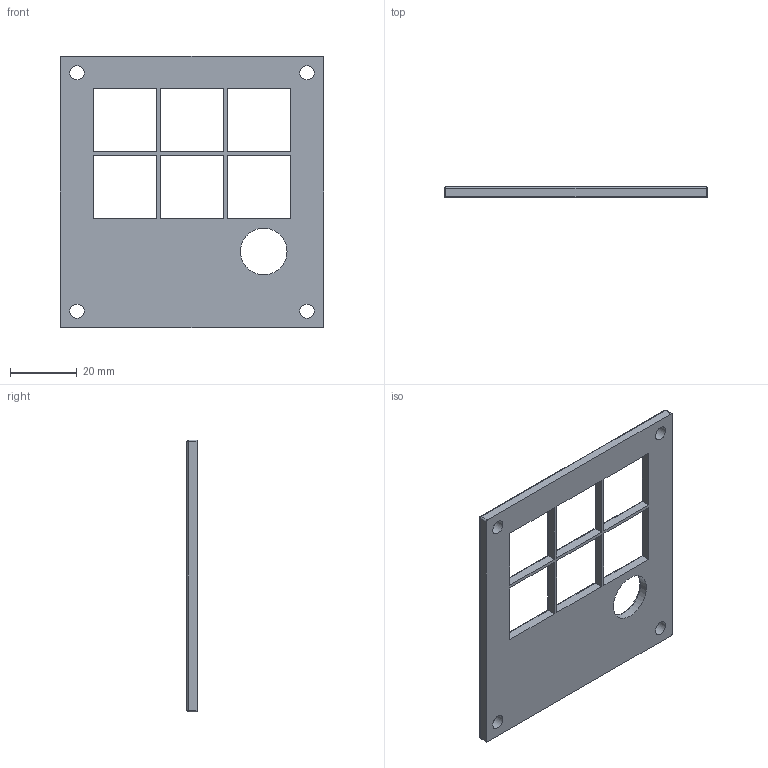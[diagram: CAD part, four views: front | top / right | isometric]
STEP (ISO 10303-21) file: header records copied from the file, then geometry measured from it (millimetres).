
FILE_DESCRIPTION(/* description */ ('STEP AP242 Edition 2','CAx-IF Rec.Pracs.---Representation and Presentation of Product Manufacturing Information (PMI)---4.0---2014-10-13','CAx-IF Rec.Pracs.---3D Tessellated Geometry---0.4---2014-09-14','2;1','CAx-IF Rec.Pracs.---User Defined Attributes---1.5---2016-08-15'),/* implementation_level */ '2;1');
FILE_NAME(/* name */ 'Configuration 6 - casetop',/* time_stamp */ '2026-10-25T00:37:35Z',/* author */ (''),/* organization */ (''),/* preprocessor_version */ 'ST-DEVELOPER v20',/* originating_system */ 'ONSHAPE BY PTC INC, 1.222',/* authorisation */ ' ');
FILE_SCHEMA (('AP242_MANAGED_MODEL_BASED_3D_ENGINEERING_MIM_LF { 1 0 10303 442 3 1 4 }'));
Length unit declared in the file: metre
Products named in the file (1): casetop
Bounding box: 79 x 3 x 81.5 mm (x, y, z)
Volume: 11781 mm3; surface area: 11043.5 mm2
Topology: 1 solids, 1 shells, 297 faces, 720 edges, 432 vertices
Faces by surface type: cylinder 141, plane 105, torus 47, sphere 4
Full cylindrical faces by diameter (mm): 4.3 x4, 14 x1
Entity records: 8638 total; most frequent: CARTESIAN_POINT 1653, DIRECTION 1476, ORIENTED_EDGE 1426, EDGE_CURVE 713, AXIS2_PLACEMENT_3D 534, VERTEX_POINT 431, LINE 408, VECTOR 408
